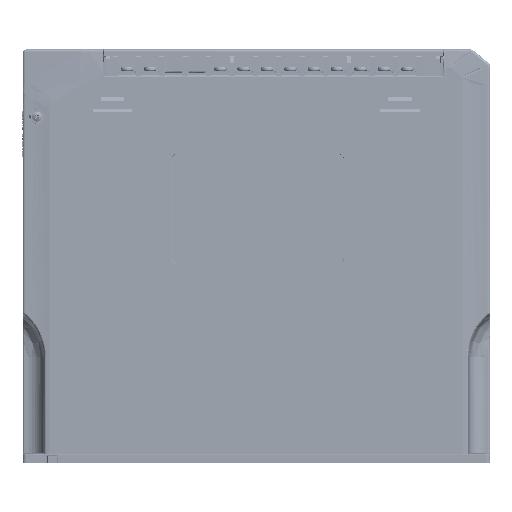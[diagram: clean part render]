
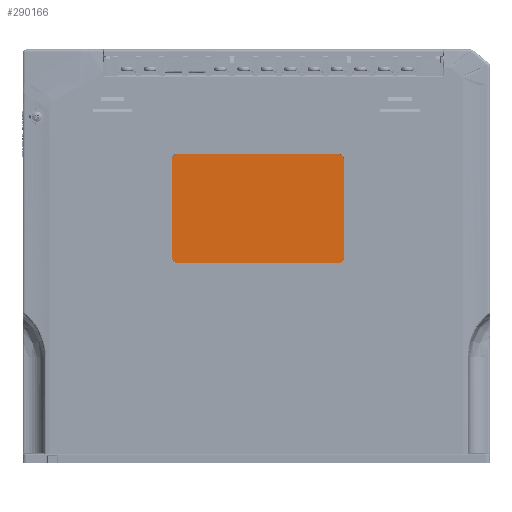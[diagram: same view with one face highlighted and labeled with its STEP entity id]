
A CAD part, left-side view. The second image highlights one B-rep face of the part: STEP entity #290166.
In plain terms, the highlighted planar face has unit normal (1, 0, 0).
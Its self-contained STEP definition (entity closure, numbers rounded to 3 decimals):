
#1674 = DIRECTION ( 'NONE',  ( -1., 0., 0. ) ) ;
#4188 = DIRECTION ( 'NONE',  ( 0., -1., 0. ) ) ;
#6713 = EDGE_CURVE ( 'NONE', #369009, #394722, #368627, .T. ) ;
#11940 = CARTESIAN_POINT ( 'NONE',  ( -87.422, 27.093, -61.35 ) ) ;
#18315 = CARTESIAN_POINT ( 'NONE',  ( -87.422, -65.507, -115.95 ) ) ;
#26314 = AXIS2_PLACEMENT_3D ( 'NONE', #30850, #309235, #386634 ) ;
#30850 = CARTESIAN_POINT ( 'NONE',  ( -87.422, 24.093, -115.95 ) ) ;
#34981 = DIRECTION ( 'NONE',  ( 0., 1., 0. ) ) ;
#58073 = DIRECTION ( 'NONE',  ( 1., 0., 0. ) ) ;
#71914 = EDGE_CURVE ( 'NONE', #464172, #394722, #280173, .T. ) ;
#76494 = CARTESIAN_POINT ( 'NONE',  ( -87.422, 27.093, -118.95 ) ) ;
#80367 = AXIS2_PLACEMENT_3D ( 'NONE', #475697, #161116, #480764 ) ;
#83126 = ORIENTED_EDGE ( 'NONE', *, *, #71914, .F. ) ;
#86236 = VERTEX_POINT ( 'NONE', #182915 ) ;
#96102 = EDGE_CURVE ( 'NONE', #464172, #325338, #374163, .T. ) ;
#106836 = DIRECTION ( 'NONE',  ( 0., -1., 0. ) ) ;
#108402 = CARTESIAN_POINT ( 'NONE',  ( -87.422, 27.093, -88.65 ) ) ;
#109809 = LINE ( 'NONE', #194784, #406984 ) ;
#125430 = CARTESIAN_POINT ( 'NONE',  ( -87.422, -68.507, -88.65 ) ) ;
#134028 = ORIENTED_EDGE ( 'NONE', *, *, #96102, .T. ) ;
#135373 = VERTEX_POINT ( 'NONE', #11940 ) ;
#140268 = ORIENTED_EDGE ( 'NONE', *, *, #6713, .T. ) ;
#145082 = EDGE_LOOP ( 'NONE', ( #140268, #83126, #134028, #265776, #395597, #433444, #350754, #272939 ) ) ;
#148394 = VECTOR ( 'NONE', #106836, 1000. ) ;
#161116 = DIRECTION ( 'NONE',  ( 1., 0., 0. ) ) ;
#161465 = PLANE ( 'NONE',  #228874 ) ;
#170977 = VECTOR ( 'NONE', #403834, 1000. ) ;
#176687 = CARTESIAN_POINT ( 'NONE',  ( -87.422, 24.093, -61.35 ) ) ;
#182915 = CARTESIAN_POINT ( 'NONE',  ( -87.422, 24.093, -58.35 ) ) ;
#191783 = AXIS2_PLACEMENT_3D ( 'NONE', #176687, #58073, #336514 ) ;
#194784 = CARTESIAN_POINT ( 'NONE',  ( -87.422, -20.707, -58.35 ) ) ;
#202720 = FACE_OUTER_BOUND ( 'NONE', #145082, .T. ) ;
#203439 = EDGE_CURVE ( 'NONE', #135373, #315045, #343030, .T. ) ;
#205851 = CARTESIAN_POINT ( 'NONE',  ( -87.422, -65.507, -58.35 ) ) ;
#214000 = EDGE_CURVE ( 'NONE', #480188, #325338, #233065, .T. ) ;
#221087 = CARTESIAN_POINT ( 'NONE',  ( -87.422, -65.507, -118.95 ) ) ;
#223999 = CIRCLE ( 'NONE', #26314, 3. ) ;
#228874 = AXIS2_PLACEMENT_3D ( 'NONE', #76494, #1674, #4188 ) ;
#233065 = LINE ( 'NONE', #460066, #148394 ) ;
#234316 = AXIS2_PLACEMENT_3D ( 'NONE', #18315, #252978, #245326 ) ;
#235835 = CARTESIAN_POINT ( 'NONE',  ( -87.422, -68.507, -115.95 ) ) ;
#245326 = DIRECTION ( 'NONE',  ( 0., 0., 1. ) ) ;
#252978 = DIRECTION ( 'NONE',  ( 1., 0., 0. ) ) ;
#253616 = EDGE_CURVE ( 'NONE', #135373, #86236, #414072, .T. ) ;
#265776 = ORIENTED_EDGE ( 'NONE', *, *, #214000, .F. ) ;
#272939 = ORIENTED_EDGE ( 'NONE', *, *, #504240, .F. ) ;
#280173 = LINE ( 'NONE', #125430, #170977 ) ;
#290166 = ADVANCED_FACE ( 'NONE', ( #202720 ), #161465, .F. ) ;
#309235 = DIRECTION ( 'NONE',  ( 1., 0., 0. ) ) ;
#315045 = VERTEX_POINT ( 'NONE', #449782 ) ;
#325338 = VERTEX_POINT ( 'NONE', #221087 ) ;
#336514 = DIRECTION ( 'NONE',  ( 0., 0., 1. ) ) ;
#343030 = LINE ( 'NONE', #108402, #428882 ) ;
#344422 = CARTESIAN_POINT ( 'NONE',  ( -87.422, -68.507, -61.35 ) ) ;
#345587 = DIRECTION ( 'NONE',  ( 0., 0., -1. ) ) ;
#350754 = ORIENTED_EDGE ( 'NONE', *, *, #253616, .T. ) ;
#368627 = CIRCLE ( 'NONE', #80367, 3. ) ;
#369009 = VERTEX_POINT ( 'NONE', #205851 ) ;
#374163 = CIRCLE ( 'NONE', #234316, 3. ) ;
#386634 = DIRECTION ( 'NONE',  ( 0., 0., 1. ) ) ;
#394722 = VERTEX_POINT ( 'NONE', #344422 ) ;
#395597 = ORIENTED_EDGE ( 'NONE', *, *, #428829, .T. ) ;
#403834 = DIRECTION ( 'NONE',  ( 0., 0., 1. ) ) ;
#406984 = VECTOR ( 'NONE', #34981, 1000. ) ;
#414072 = CIRCLE ( 'NONE', #191783, 3. ) ;
#428829 = EDGE_CURVE ( 'NONE', #480188, #315045, #223999, .T. ) ;
#428882 = VECTOR ( 'NONE', #345587, 1000. ) ;
#433444 = ORIENTED_EDGE ( 'NONE', *, *, #203439, .F. ) ;
#449782 = CARTESIAN_POINT ( 'NONE',  ( -87.422, 27.093, -115.95 ) ) ;
#460066 = CARTESIAN_POINT ( 'NONE',  ( -87.422, -20.707, -118.95 ) ) ;
#464172 = VERTEX_POINT ( 'NONE', #235835 ) ;
#475697 = CARTESIAN_POINT ( 'NONE',  ( -87.422, -65.507, -61.35 ) ) ;
#480188 = VERTEX_POINT ( 'NONE', #491383 ) ;
#480764 = DIRECTION ( 'NONE',  ( 0., 0., 1. ) ) ;
#491383 = CARTESIAN_POINT ( 'NONE',  ( -87.422, 24.093, -118.95 ) ) ;
#504240 = EDGE_CURVE ( 'NONE', #369009, #86236, #109809, .T. ) ;
